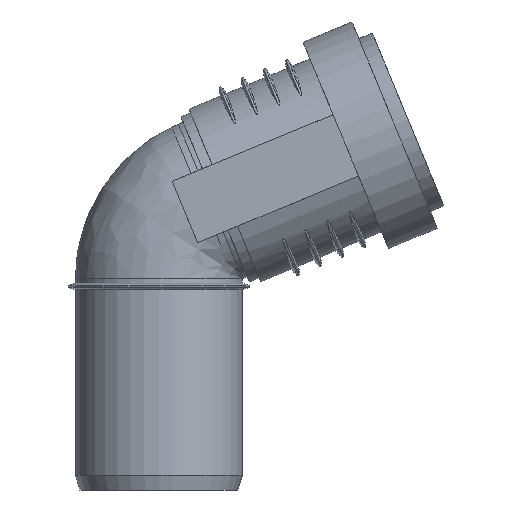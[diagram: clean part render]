
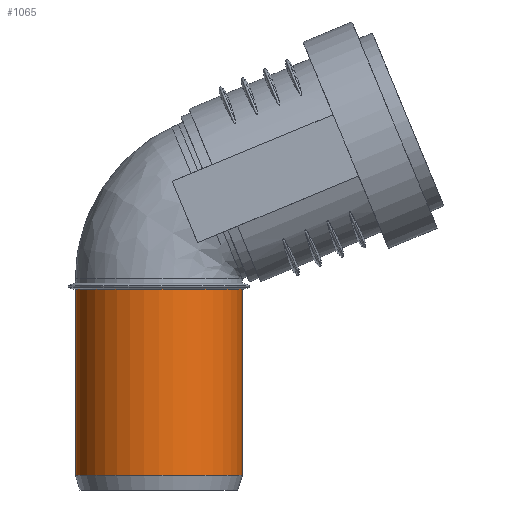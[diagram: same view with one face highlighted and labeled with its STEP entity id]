
A CAD part, front view. The second image highlights one B-rep face of the part: STEP entity #1065.
In plain terms, the highlighted cylindrical face has radius 20.075 mm (diameter 40.15 mm), a full revolution.
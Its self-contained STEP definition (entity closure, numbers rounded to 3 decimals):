
#190=CYLINDRICAL_SURFACE($,#1140,20.075);
#209=FACE_BOUND($,#314,.T.);
#252=FACE_OUTER_BOUND($,#313,.T.);
#313=EDGE_LOOP($,(#716));
#314=EDGE_LOOP($,(#717));
#414=CIRCLE($,#1138,20.075);
#416=CIRCLE($,#1141,20.075);
#469=VERTEX_POINT($,#1555);
#471=VERTEX_POINT($,#1560);
#575=EDGE_CURVE($,#469,#469,#414,.T.);
#577=EDGE_CURVE($,#471,#471,#416,.T.);
#716=ORIENTED_EDGE($,*,*,#577,.T.);
#717=ORIENTED_EDGE($,*,*,#575,.F.);
#1065=ADVANCED_FACE($,(#252,#209),#190,.T.);
#1138=AXIS2_PLACEMENT_3D($,#1556,#1267,#1268);
#1140=AXIS2_PLACEMENT_3D($,#1559,#1271,#1272);
#1141=AXIS2_PLACEMENT_3D($,#1561,#1273,#1274);
#1267=DIRECTION('center_axis',(0.,0.,-1.));
#1268=DIRECTION('ref_axis',(-1.,0.,0.));
#1271=DIRECTION('center_axis',(0.,0.,1.));
#1272=DIRECTION('ref_axis',(-1.,0.,0.));
#1273=DIRECTION('center_axis',(0.,0.,-1.));
#1274=DIRECTION('ref_axis',(-1.,0.,0.));
#1555=CARTESIAN_POINT('',(20.075,0.,3.5));
#1556=CARTESIAN_POINT('Origin',(0.,0.,3.5));
#1559=CARTESIAN_POINT('Origin',(0.,0.,0.));
#1560=CARTESIAN_POINT('',(-20.075,0.,48.3));
#1561=CARTESIAN_POINT('Origin',(0.,0.,48.3));
